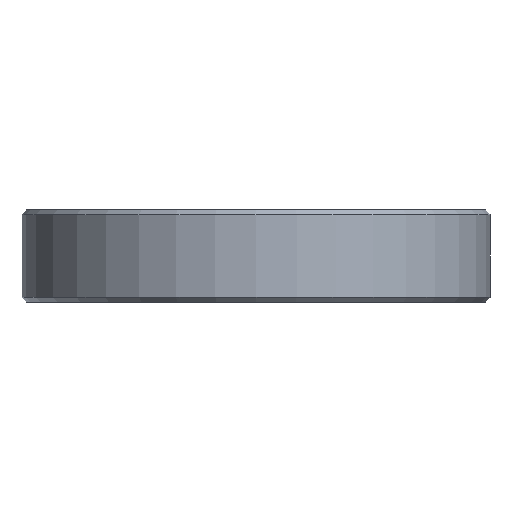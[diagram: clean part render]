
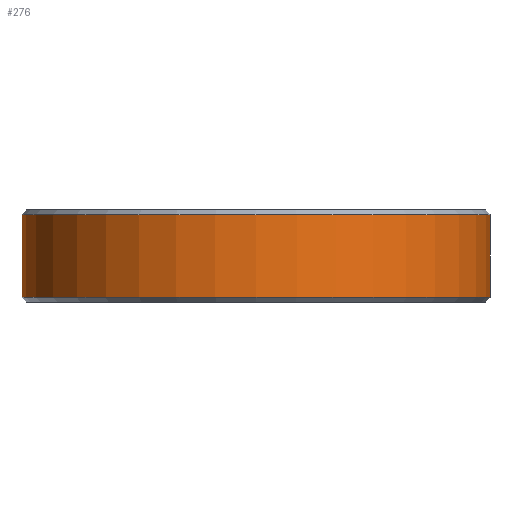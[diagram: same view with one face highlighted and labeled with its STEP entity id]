
A CAD part, front view. The second image highlights one B-rep face of the part: STEP entity #276.
In plain terms, the highlighted cylindrical face has radius 25.352 mm (diameter 50.703 mm), a partial arc.
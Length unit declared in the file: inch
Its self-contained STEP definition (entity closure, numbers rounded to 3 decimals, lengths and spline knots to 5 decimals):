
#55 = CARTESIAN_POINT ( 'NONE',  ( 0.9981, 0., 0.02 ) ) ;
#97 = LINE ( 'NONE', #1235, #2320 ) ;
#180 = CARTESIAN_POINT ( 'NONE',  ( -0.9981, 0., 0.02 ) ) ;
#193 = ORIENTED_EDGE ( 'NONE', *, *, #1765, .F. ) ;
#268 = DIRECTION ( 'NONE',  ( 0., 0., 1. ) ) ;
#275 = CARTESIAN_POINT ( 'NONE',  ( 0., 0., 0.02 ) ) ;
#276 = ADVANCED_FACE ( 'NONE', ( #1332 ), #767, .T. ) ;
#441 = AXIS2_PLACEMENT_3D ( 'NONE', #275, #268, #1139 ) ;
#591 = VECTOR ( 'NONE', #1122, 39.37008 ) ;
#594 = CIRCLE ( 'NONE', #916, 0.9981 ) ;
#624 = VERTEX_POINT ( 'NONE', #180 ) ;
#628 = ORIENTED_EDGE ( 'NONE', *, *, #2541, .T. ) ;
#640 = VERTEX_POINT ( 'NONE', #1492 ) ;
#767 = CYLINDRICAL_SURFACE ( 'NONE', #1110, 0.9981 ) ;
#816 = CARTESIAN_POINT ( 'NONE',  ( 0., 0., 0.3737 ) ) ;
#916 = AXIS2_PLACEMENT_3D ( 'NONE', #816, #2126, #2322 ) ;
#917 = EDGE_CURVE ( 'NONE', #624, #992, #2662, .T. ) ;
#992 = VERTEX_POINT ( 'NONE', #55 ) ;
#1047 = CARTESIAN_POINT ( 'NONE',  ( 0.9981, 0., 0.3737 ) ) ;
#1081 = DIRECTION ( 'NONE',  ( -1., 0., 0. ) ) ;
#1110 = AXIS2_PLACEMENT_3D ( 'NONE', #2569, #1724, #1081 ) ;
#1122 = DIRECTION ( 'NONE',  ( 0., 0., -1. ) ) ;
#1139 = DIRECTION ( 'NONE',  ( 1., 0., 0. ) ) ;
#1235 = CARTESIAN_POINT ( 'NONE',  ( 0.9981, 0., 0.3937 ) ) ;
#1332 = FACE_OUTER_BOUND ( 'NONE', #2189, .T. ) ;
#1361 = ORIENTED_EDGE ( 'NONE', *, *, #2331, .T. ) ;
#1455 = DIRECTION ( 'NONE',  ( 0., 0., -1. ) ) ;
#1492 = CARTESIAN_POINT ( 'NONE',  ( -0.9981, 0., 0.3737 ) ) ;
#1574 = CARTESIAN_POINT ( 'NONE',  ( -0.9981, 0., 0.3937 ) ) ;
#1598 = LINE ( 'NONE', #1574, #591 ) ;
#1600 = ORIENTED_EDGE ( 'NONE', *, *, #917, .T. ) ;
#1724 = DIRECTION ( 'NONE',  ( 0., 0., -1. ) ) ;
#1765 = EDGE_CURVE ( 'NONE', #2285, #992, #97, .T. ) ;
#2126 = DIRECTION ( 'NONE',  ( 0., 0., -1. ) ) ;
#2189 = EDGE_LOOP ( 'NONE', ( #193, #1361, #628, #1600 ) ) ;
#2285 = VERTEX_POINT ( 'NONE', #1047 ) ;
#2320 = VECTOR ( 'NONE', #1455, 39.37008 ) ;
#2322 = DIRECTION ( 'NONE',  ( 1., 0., 0. ) ) ;
#2331 = EDGE_CURVE ( 'NONE', #2285, #640, #594, .T. ) ;
#2541 = EDGE_CURVE ( 'NONE', #640, #624, #1598, .T. ) ;
#2569 = CARTESIAN_POINT ( 'NONE',  ( 0., 0., 0.3937 ) ) ;
#2662 = CIRCLE ( 'NONE', #441, 0.9981 ) ;
